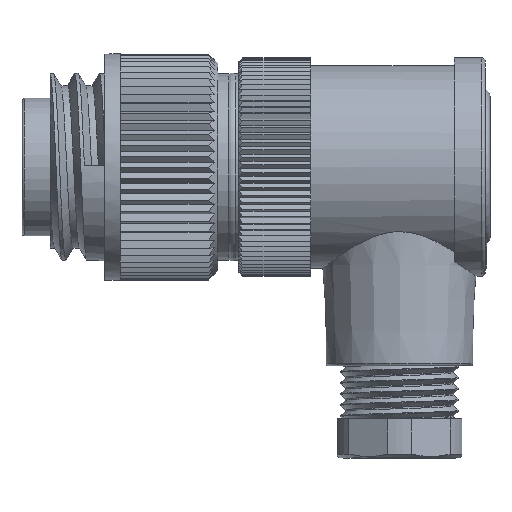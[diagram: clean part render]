
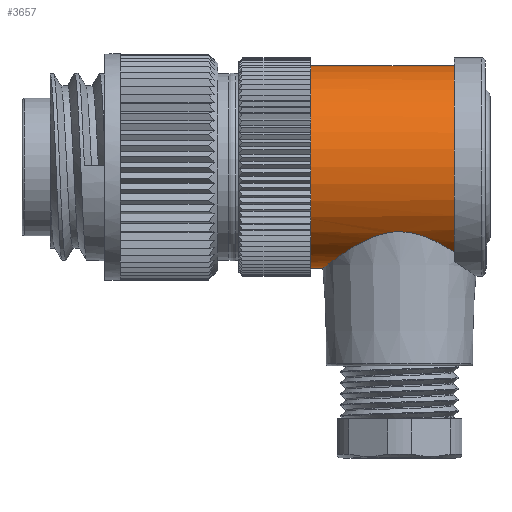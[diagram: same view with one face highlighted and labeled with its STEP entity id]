
A CAD part, top view. The second image highlights one B-rep face of the part: STEP entity #3657.
In plain terms, the highlighted cylindrical face has radius 13 mm (diameter 26 mm), a full revolution.
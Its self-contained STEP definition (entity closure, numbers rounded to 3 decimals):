
#3158=B_SPLINE_CURVE_WITH_KNOTS('',3,(#15438,#15439,#15440,#15441,#15442,
#15443,#15444,#15445,#15446,#15447,#15448,#15449,#15450,#15451,#15452,#15453,
#15454,#15455,#15456,#15457,#15458,#15459),.UNSPECIFIED.,.F.,.F.,(4,2,2,
2,2,2,2,2,2,2,4),(0.,0.125,0.188,0.25,0.375,
0.5,0.625,0.75,0.813,
0.875,1.),.UNSPECIFIED.);
#3657=ADVANCED_FACE('',(#4425,#4426),#4351,.T.);
#4351=CYLINDRICAL_SURFACE('',#11696,13.);
#4425=FACE_BOUND('',#4603,.T.);
#4426=FACE_BOUND('',#4604,.T.);
#4603=EDGE_LOOP('',(#5398,#5399));
#4604=EDGE_LOOP('',(#5400));
#5398=ORIENTED_EDGE('',*,*,#9766,.T.);
#5399=ORIENTED_EDGE('',*,*,#9767,.T.);
#5400=ORIENTED_EDGE('',*,*,#9768,.T.);
#8704=VERTEX_POINT('',#15436);
#8705=VERTEX_POINT('',#15437);
#8706=VERTEX_POINT('',#15461);
#9766=EDGE_CURVE('',#8704,#8705,#11419,.T.);
#9767=EDGE_CURVE('',#8705,#8704,#3158,.T.);
#9768=EDGE_CURVE('',#8706,#8706,#11420,.T.);
#11419=CIRCLE('',#11694,13.);
#11420=CIRCLE('',#11695,13.);
#11694=AXIS2_PLACEMENT_3D('',#15435,#12643,#12644);
#11695=AXIS2_PLACEMENT_3D('',#15460,#12645,#12646);
#11696=AXIS2_PLACEMENT_3D('',#15462,#12647,#12648);
#12643=DIRECTION('',(-1.,0.,0.));
#12644=DIRECTION('',(0.,0.,1.));
#12645=DIRECTION('',(1.,0.,0.));
#12646=DIRECTION('',(0.,0.,1.));
#12647=DIRECTION('',(1.,0.,0.));
#12648=DIRECTION('',(0.,0.,1.));
#15435=CARTESIAN_POINT('',(41.35,0.,0.));
#15436=CARTESIAN_POINT('',(41.35,-10.947,7.012));
#15437=CARTESIAN_POINT('',(41.35,-10.947,-7.012));
#15438=CARTESIAN_POINT('',(41.35,-10.947,-7.012));
#15439=CARTESIAN_POINT('',(40.038,-10.081,-8.364));
#15440=CARTESIAN_POINT('',(38.417,-9.083,-9.324));
#15441=CARTESIAN_POINT('',(35.479,-8.331,-9.986));
#15442=CARTESIAN_POINT('',(34.421,-8.243,-10.054));
#15443=CARTESIAN_POINT('',(32.384,-8.484,-9.852));
#15444=CARTESIAN_POINT('',(31.409,-8.796,-9.587));
#15445=CARTESIAN_POINT('',(28.783,-9.931,-8.456));
#15446=CARTESIAN_POINT('',(27.331,-10.933,-7.25));
#15447=CARTESIAN_POINT('',(25.181,-12.465,-4.087));
#15448=CARTESIAN_POINT('',(24.521,-12.995,-2.107));
#15449=CARTESIAN_POINT('',(24.507,-13.005,2.044));
#15450=CARTESIAN_POINT('',(25.165,-12.478,4.05));
#15451=CARTESIAN_POINT('',(27.306,-10.95,7.226));
#15452=CARTESIAN_POINT('',(28.741,-9.954,8.432));
#15453=CARTESIAN_POINT('',(31.394,-8.801,9.584));
#15454=CARTESIAN_POINT('',(32.364,-8.488,9.847));
#15455=CARTESIAN_POINT('',(34.4,-8.243,10.054));
#15456=CARTESIAN_POINT('',(35.458,-8.328,9.988));
#15457=CARTESIAN_POINT('',(38.397,-9.073,9.333));
#15458=CARTESIAN_POINT('',(40.037,-10.08,8.365));
#15459=CARTESIAN_POINT('',(41.35,-10.947,7.012));
#15460=CARTESIAN_POINT('',(21.95,0.,0.));
#15461=CARTESIAN_POINT('',(21.95,0.,13.));
#15462=CARTESIAN_POINT('',(29.1,0.,0.));
